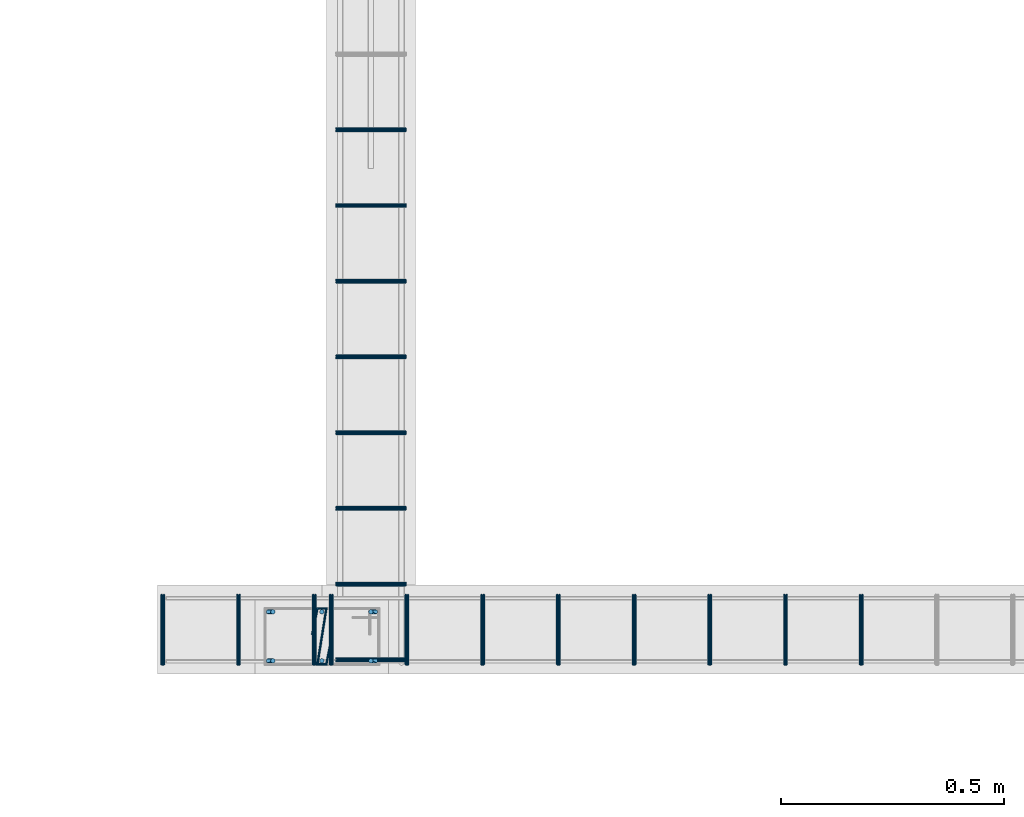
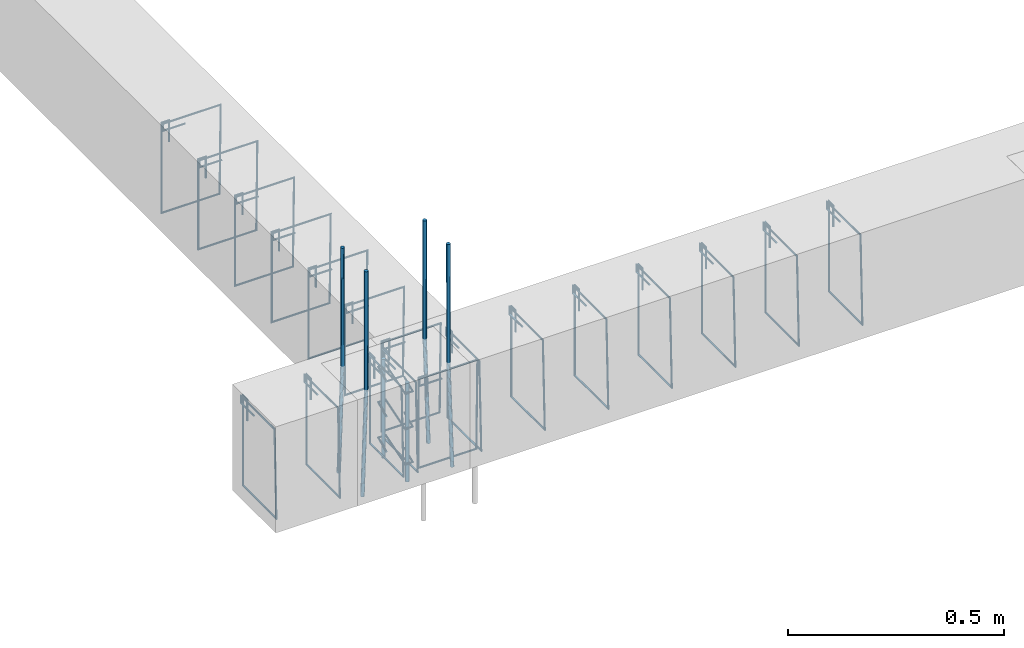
# One storey, part 63 of 150: 28 reinforcing bars.
"""IFC4 building model written with IfcOpenShell, lengths in centimetres."""

from ifc_helpers import new_model, entity, si_unit, derived_unit, frame, origin_with_axes, place, context, project, spatial, source, transform, mapped, element, save


model = new_model("IFC4")

# Units and contexts
model_context = context("Model", 3, precision=1e-05, world=origin_with_axes(), identifier="Body")
ifc_project = project(units=[si_unit("LENGTHUNIT", "METRE", prefix="CENTI"), si_unit("VOLUMEUNIT", "CUBIC_METRE"), si_unit("AREAUNIT", "SQUARE_METRE"), si_unit("POWERUNIT", "WATT"), si_unit("LUMINOUSFLUXUNIT", "LUMEN"), si_unit("ELECTRICCURRENTUNIT", "AMPERE"), si_unit("PRESSUREUNIT", "PASCAL", prefix="KILO"), si_unit("MASSUNIT", "GRAM", prefix="KILO"), si_unit("PLANEANGLEUNIT", "RADIAN"), derived_unit("VOLUMETRICFLOWRATEUNIT", [(si_unit("LENGTHUNIT", "METRE"), 3), (si_unit("TIMEUNIT", "SECOND"), -1)])], contexts=[model_context])

# Site, building, storey
site_placement = place(None, frame((-4000.0, 0.0, 0.0), z_axis=(0.0, 0.0, 1.0), x_axis=(1.0, 0.0, 0.0)))
site = spatial("IfcSite", under=ifc_project, at=site_placement, Name="PADRÃO")
building_placement = place(site_placement, frame((0.0, 0.0, -14.0)))
building = spatial("IfcBuilding", under=site, at=building_placement, Name="CRECHE PRÉ-ESCOLA TIPO 2")
placement = place(building_placement, origin_with_axes())
storey_placement = place(placement, frame((0.0, 0.0, 30.0), z_axis=(0.0, 0.0, 1.0), x_axis=(1.0, 0.0, 0.0)))
storey = spatial("IfcBuildingStorey", under=building, at=storey_placement, Name="VIGA BALDRAME", CompositionType="ELEMENT", Elevation=16.0)

# Reinforcing bars
shared_shape_1 = source(origin_with_axes(), model_context, "Body", "AdvancedSweptSolid", [
    entity("IfcSweptDiskSolid", entity("IfcCompositeCurve", [entity("IfcCompositeCurveSegment", "CONTINUOUS", True, entity("IfcPolyline", [entity("IfcCartesianPoint", [8.81925062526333, 17.1913887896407, 0.0]), entity("IfcCartesianPoint", [14.75, 16.0, 0.0])])), entity("IfcCompositeCurveSegment", "CONTINUOUS", True, entity("IfcPolyline", [entity("IfcCartesianPoint", [14.75, 16.0, 0.0]), entity("IfcCartesianPoint", [14.75, 14.0, 0.0])])), entity("IfcCompositeCurveSegment", "CONTINUOUS", True, entity("IfcPolyline", [entity("IfcCartesianPoint", [14.75, 14.0, 0.0]), entity("IfcCartesianPoint", [2.25, 16.0, 0.0])])), entity("IfcCompositeCurveSegment", "CONTINUOUS", True, entity("IfcPolyline", [entity("IfcCartesianPoint", [2.25, 16.0, 0.0]), entity("IfcCartesianPoint", [2.25, 14.0, 0.0])])), entity("IfcCompositeCurveSegment", "CONTINUOUS", True, entity("IfcPolyline", [entity("IfcCartesianPoint", [2.25, 14.0, 0.0]), entity("IfcCartesianPoint", [8.1807493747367, 12.8086112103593, 0.0])]))], False), 0.25),
])
for number, where, z_axis, x_axis, name in (
    (1, (253.0, 2692.01, -24.5), (0.0, 0.0, 1.0), (0.0, -1.0, 0.0), "P65 - Grampo"),
    (2, (253.0, 2692.01, -4.5), (0.0, 0.0, 1.0), (0.0, -1.0, 0.0), "P65 - Grampo"),
    (3, (253.0, 2692.01, -14.5), (0.0, 0.0, 1.0), (0.0, -1.0, 0.0), "P65 - Grampo"),
):
    element("IfcReinforcingBar", number, at=place(storey_placement, frame(where, z_axis=z_axis, x_axis=x_axis)), inside=storey, Name=name, BarLength=0.0, CrossSectionArea=1.9634954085e-05, NominalDiameter=0.5, PredefinedType="MAIN", context=model_context, shape_type="MappedRepresentation", body=[
        mapped(shared_shape_1, transform((0.0, 0.0, 0.0), scale=1.0)),
    ])
shared_shape_2 = source(origin_with_axes(), model_context, "Body", "AdvancedSweptSolid", [
    entity("IfcSweptDiskSolid", entity("IfcCompositeCurve", [entity("IfcCompositeCurveSegment", "CONTINUOUS", True, entity("IfcPolyline", [entity("IfcCartesianPoint", [2.0, -6.0, 0.0]), entity("IfcCartesianPoint", [2.0, 0.0, 0.0])])), entity("IfcCompositeCurveSegment", "CONTINUOUS", True, entity("IfcPolyline", [entity("IfcCartesianPoint", [2.0, 0.0, 0.0]), entity("IfcCartesianPoint", [0.0, 0.0, 0.0])])), entity("IfcCompositeCurveSegment", "CONTINUOUS", True, entity("IfcPolyline", [entity("IfcCartesianPoint", [0.0, 0.0, 0.0]), entity("IfcCartesianPoint", [0.0, -25.5, 0.0])])), entity("IfcCompositeCurveSegment", "CONTINUOUS", True, entity("IfcPolyline", [entity("IfcCartesianPoint", [0.0, -25.5, 0.0]), entity("IfcCartesianPoint", [15.5, -25.5, 0.0])])), entity("IfcCompositeCurveSegment", "CONTINUOUS", True, entity("IfcPolyline", [entity("IfcCartesianPoint", [15.5, -25.5, 0.0]), entity("IfcCartesianPoint", [15.5, 0.0, 0.5])])), entity("IfcCompositeCurveSegment", "CONTINUOUS", True, entity("IfcPolyline", [entity("IfcCartesianPoint", [15.5, 0.0, 0.5]), entity("IfcCartesianPoint", [0.0, 0.0, 0.5])])), entity("IfcCompositeCurveSegment", "CONTINUOUS", True, entity("IfcPolyline", [entity("IfcCartesianPoint", [0.0, 0.0, 0.5]), entity("IfcCartesianPoint", [0.0, -2.0, 0.5])])), entity("IfcCompositeCurveSegment", "CONTINUOUS", True, entity("IfcPolyline", [entity("IfcCartesianPoint", [0.0, -2.0, 0.5]), entity("IfcCartesianPoint", [6.0, -2.0, 0.5])]))], False), 0.25),
])
for number, where, z_axis, x_axis, name in (
    (4, (249.525, 2692.76, -2.25), (-1.0, 0.0, 0.0), (0.0, -1.0, 0.0), "V117 - Estribo"),
    (5, (232.525, 2692.76, -2.25), (-1.0, 0.0, 0.0), (0.0, -1.0, 0.0), "V117 - Estribo"),
    (6, (266.525, 2692.76, -2.25), (-1.0, 0.0, 0.0), (0.0, -1.0, 0.0), "V117 - Estribo"),
):
    element("IfcReinforcingBar", number, at=place(storey_placement, frame(where, z_axis=z_axis, x_axis=x_axis)), inside=storey, Name=name, BarLength=0.0, CrossSectionArea=1.9634954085e-05, NominalDiameter=0.5, PredefinedType="MAIN", context=model_context, shape_type="MappedRepresentation", body=[
        mapped(shared_shape_2, transform((0.0, 0.0, 0.0), scale=1.0)),
    ])
shared_shape_3 = source(origin_with_axes(), model_context, "Body", "AdvancedSweptSolid", [
    entity("IfcSweptDiskSolid", entity("IfcCompositeCurve", [entity("IfcCompositeCurveSegment", "CONTINUOUS", True, entity("IfcPolyline", [entity("IfcCartesianPoint", [2.0, -6.0, 0.0]), entity("IfcCartesianPoint", [2.0, 0.0, 0.0])])), entity("IfcCompositeCurveSegment", "CONTINUOUS", True, entity("IfcPolyline", [entity("IfcCartesianPoint", [2.0, 0.0, 0.0]), entity("IfcCartesianPoint", [0.0, 0.0, 0.0])])), entity("IfcCompositeCurveSegment", "CONTINUOUS", True, entity("IfcPolyline", [entity("IfcCartesianPoint", [0.0, 0.0, 0.0]), entity("IfcCartesianPoint", [0.0, -25.5, 0.0])])), entity("IfcCompositeCurveSegment", "CONTINUOUS", True, entity("IfcPolyline", [entity("IfcCartesianPoint", [0.0, -25.5, 0.0]), entity("IfcCartesianPoint", [15.5, -25.5, 0.0])])), entity("IfcCompositeCurveSegment", "CONTINUOUS", True, entity("IfcPolyline", [entity("IfcCartesianPoint", [15.5, -25.5, 0.0]), entity("IfcCartesianPoint", [15.5, 0.0, 0.5])])), entity("IfcCompositeCurveSegment", "CONTINUOUS", True, entity("IfcPolyline", [entity("IfcCartesianPoint", [15.5, 0.0, 0.5]), entity("IfcCartesianPoint", [0.0, 0.0, 0.5])])), entity("IfcCompositeCurveSegment", "CONTINUOUS", True, entity("IfcPolyline", [entity("IfcCartesianPoint", [0.0, 0.0, 0.5]), entity("IfcCartesianPoint", [0.0, -2.0, 0.5])])), entity("IfcCompositeCurveSegment", "CONTINUOUS", True, entity("IfcPolyline", [entity("IfcCartesianPoint", [0.0, -2.0, 0.5]), entity("IfcCartesianPoint", [6.0, -2.0, 0.5])]))], False), 0.25),
])
for number, where, z_axis, x_axis, name in (
    (7, (389.345, 2692.76, -2.25), (-1.0, 0.0, 0.0), (0.0, -1.0, 0.0), "V117 - Estribo"),
    (8, (372.345, 2692.76, -2.25), (-1.0, 0.0, 0.0), (0.0, -1.0, 0.0), "V117 - Estribo"),
    (9, (355.345, 2692.76, -2.25), (-1.0, 0.0, 0.0), (0.0, -1.0, 0.0), "V117 - Estribo"),
    (10, (338.345, 2692.76, -2.25), (-1.0, 0.0, 0.0), (0.0, -1.0, 0.0), "V117 - Estribo"),
    (11, (321.345, 2692.76, -2.25), (-1.0, 0.0, 0.0), (0.0, -1.0, 0.0), "V117 - Estribo"),
    (12, (304.345, 2692.76, -2.25), (-1.0, 0.0, 0.0), (0.0, -1.0, 0.0), "V117 - Estribo"),
    (13, (287.345, 2692.76, -2.25), (-1.0, 0.0, 0.0), (0.0, -1.0, 0.0), "V117 - Estribo"),
    (14, (270.345, 2692.76, -2.25), (-1.0, 0.0, 0.0), (0.0, -1.0, 0.0), "V117 - Estribo"),
):
    element("IfcReinforcingBar", number, at=place(storey_placement, frame(where, z_axis=z_axis, x_axis=x_axis)), inside=storey, Name=name, BarLength=0.0, CrossSectionArea=1.9634954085e-05, NominalDiameter=0.5, PredefinedType="MAIN", context=model_context, shape_type="MappedRepresentation", body=[
        mapped(shared_shape_3, transform((0.0, 0.0, 0.0), scale=1.0)),
    ])
shared_shape_4 = source(origin_with_axes(), model_context, "Body", "AdvancedSweptSolid", [
    entity("IfcSweptDiskSolid", entity("IfcCompositeCurve", [entity("IfcCompositeCurveSegment", "CONTINUOUS", True, entity("IfcPolyline", [entity("IfcCartesianPoint", [2.0, -6.0, 0.0]), entity("IfcCartesianPoint", [2.0, 0.0, 0.0])])), entity("IfcCompositeCurveSegment", "CONTINUOUS", True, entity("IfcPolyline", [entity("IfcCartesianPoint", [2.0, 0.0, 0.0]), entity("IfcCartesianPoint", [0.0, 0.0, 0.0])])), entity("IfcCompositeCurveSegment", "CONTINUOUS", True, entity("IfcPolyline", [entity("IfcCartesianPoint", [0.0, 0.0, 0.0]), entity("IfcCartesianPoint", [0.0, -25.5, 0.0])])), entity("IfcCompositeCurveSegment", "CONTINUOUS", True, entity("IfcPolyline", [entity("IfcCartesianPoint", [0.0, -25.5, 0.0]), entity("IfcCartesianPoint", [15.5, -25.5, 0.0])])), entity("IfcCompositeCurveSegment", "CONTINUOUS", True, entity("IfcPolyline", [entity("IfcCartesianPoint", [15.5, -25.5, 0.0]), entity("IfcCartesianPoint", [15.5, 0.0, 0.5])])), entity("IfcCompositeCurveSegment", "CONTINUOUS", True, entity("IfcPolyline", [entity("IfcCartesianPoint", [15.5, 0.0, 0.5]), entity("IfcCartesianPoint", [0.0, 0.0, 0.5])])), entity("IfcCompositeCurveSegment", "CONTINUOUS", True, entity("IfcPolyline", [entity("IfcCartesianPoint", [0.0, 0.0, 0.5]), entity("IfcCartesianPoint", [0.0, -2.0, 0.5])])), entity("IfcCompositeCurveSegment", "CONTINUOUS", True, entity("IfcPolyline", [entity("IfcCartesianPoint", [0.0, -2.0, 0.5]), entity("IfcCartesianPoint", [6.0, -2.0, 0.5])]))], False), 0.25),
])
for number, where, z_axis, x_axis, name in (
    (15, (271.25, 2712.505, -2.25), (0.0, -1.0, 0.0), (1.0, 0.0, 0.0), "V163 - Estribo"),
    (16, (271.25, 2797.505, -2.25), (0.0, -1.0, 0.0), (1.0, 0.0, 0.0), "V163 - Estribo"),
    (17, (271.25, 2780.505, -2.25), (0.0, -1.0, 0.0), (1.0, 0.0, 0.0), "V163 - Estribo"),
    (18, (271.25, 2763.505, -2.25), (0.0, -1.0, 0.0), (1.0, 0.0, 0.0), "V163 - Estribo"),
    (19, (271.25, 2746.505, -2.25), (0.0, -1.0, 0.0), (1.0, 0.0, 0.0), "V163 - Estribo"),
    (20, (271.25, 2729.505, -2.25), (0.0, -1.0, 0.0), (1.0, 0.0, 0.0), "V163 - Estribo"),
    (21, (271.25, 2695.505, -2.25), (0.0, -1.0, 0.0), (1.0, 0.0, 0.0), "V163 - Estribo"),
    (22, (271.25, 2678.505, -2.25), (0.0, -1.0, 0.0), (1.0, 0.0, 0.0), "V163 - Estribo"),
):
    element("IfcReinforcingBar", number, at=place(storey_placement, frame(where, z_axis=z_axis, x_axis=x_axis)), inside=storey, Name=name, BarLength=0.0, CrossSectionArea=1.9634954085e-05, NominalDiameter=0.5, PredefinedType="MAIN", context=model_context, shape_type="MappedRepresentation", body=[
        mapped(shared_shape_4, transform((0.0, 0.0, 0.0), scale=1.0)),
    ])
reinforcing_bar_1_placement = place(storey_placement, frame((279.499861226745, 2689.01, 33.3573001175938), z_axis=(0.0, 0.0, 1.0), x_axis=(1.0, 0.0, 0.0)))
element("IfcReinforcingBar", 23, at=reinforcing_bar_1_placement, inside=storey, Name="P65 - Longitudinal", BarLength=0.0, CrossSectionArea=7.853981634e-05, NominalDiameter=1.0, PredefinedType="MAIN", context=model_context, shape_type="AdvancedSweptSolid", body=[
    entity("IfcSweptDiskSolid", entity("IfcCompositeCurve", [entity("IfcCompositeCurveSegment", "CONTINUOUS", True, entity("IfcPolyline", [entity("IfcCartesianPoint", [0.50013877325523, 0.0, -63.3573001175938]), entity("IfcCartesianPoint", [-0.49986122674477, 0.0, -33.3573001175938])])), entity("IfcCompositeCurveSegment", "CONTINUOUS", True, entity("IfcPolyline", [entity("IfcCartesianPoint", [-0.49986122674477, 0.0, -33.3573001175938]), entity("IfcCartesianPoint", [-0.49986122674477, 0.0, 0.0])]))], False), 0.5),
])
for number, where, z_axis, x_axis, name in (
    (24, (268.0, 2689.01, -2.0), (0.0, 0.0, 1.0), (1.0, 0.0, 0.0), "P65 - Longitudinal"),
    (25, (268.0, 2678.01, -2.0), (0.0, 0.0, 1.0), (1.0, 0.0, 0.0), "P65 - Longitudinal"),
):
    element("IfcReinforcingBar", number, at=place(storey_placement, frame(where, z_axis=z_axis, x_axis=x_axis)), inside=storey, Name=name, BarLength=0.0, CrossSectionArea=7.853981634e-05, NominalDiameter=1.0, PredefinedType="MAIN", context=model_context, shape_type="AdvancedSweptSolid", body=[
        entity("IfcSweptDiskSolid", entity("IfcCompositeCurve", [entity("IfcCompositeCurveSegment", "CONTINUOUS", True, entity("IfcPolyline", [entity("IfcCartesianPoint", [0.0, 0.0, -28.0]), entity("IfcCartesianPoint", [0.0, 0.0, 0.0])]))], False), 0.5),
    ])
for number, where, z_axis, x_axis, name in (
    (26, (256.500138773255, 2689.01, 33.3573001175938), (0.0, 0.0, 1.0), (1.0, 0.0, 0.0), "P65 - Longitudinal"),
    (27, (256.500138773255, 2678.01, 33.3573001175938), (0.0, 0.0, 1.0), (1.0, 0.0, 0.0), "P65 - Longitudinal"),
):
    element("IfcReinforcingBar", number, at=place(storey_placement, frame(where, z_axis=z_axis, x_axis=x_axis)), inside=storey, Name=name, BarLength=0.0, CrossSectionArea=7.853981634e-05, NominalDiameter=1.0, PredefinedType="MAIN", context=model_context, shape_type="AdvancedSweptSolid", body=[
        entity("IfcSweptDiskSolid", entity("IfcCompositeCurve", [entity("IfcCompositeCurveSegment", "CONTINUOUS", True, entity("IfcPolyline", [entity("IfcCartesianPoint", [-0.50013877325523, 0.0, -63.3573001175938]), entity("IfcCartesianPoint", [0.49986122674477, 0.0, -33.3573001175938])])), entity("IfcCompositeCurveSegment", "CONTINUOUS", True, entity("IfcPolyline", [entity("IfcCartesianPoint", [0.49986122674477, 0.0, -33.3573001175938]), entity("IfcCartesianPoint", [0.49986122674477, 0.0, 0.0])]))], False), 0.5),
    ])
reinforcing_bar_2_placement = place(storey_placement, frame((279.499861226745, 2678.01, 33.3573001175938), z_axis=(0.0, 0.0, 1.0), x_axis=(1.0, 0.0, 0.0)))
element("IfcReinforcingBar", 28, at=reinforcing_bar_2_placement, inside=storey, Name="P65 - Longitudinal", BarLength=0.0, CrossSectionArea=7.853981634e-05, NominalDiameter=1.0, PredefinedType="MAIN", context=model_context, shape_type="AdvancedSweptSolid", body=[
    entity("IfcSweptDiskSolid", entity("IfcCompositeCurve", [entity("IfcCompositeCurveSegment", "CONTINUOUS", True, entity("IfcPolyline", [entity("IfcCartesianPoint", [0.50013877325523, 0.0, -63.3573001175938]), entity("IfcCartesianPoint", [-0.49986122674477, 0.0, -33.3573001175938])])), entity("IfcCompositeCurveSegment", "CONTINUOUS", True, entity("IfcPolyline", [entity("IfcCartesianPoint", [-0.49986122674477, 0.0, -33.3573001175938]), entity("IfcCartesianPoint", [-0.49986122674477, 0.0, 0.0])]))], False), 0.5),
])

save(model, "model.ifc")
